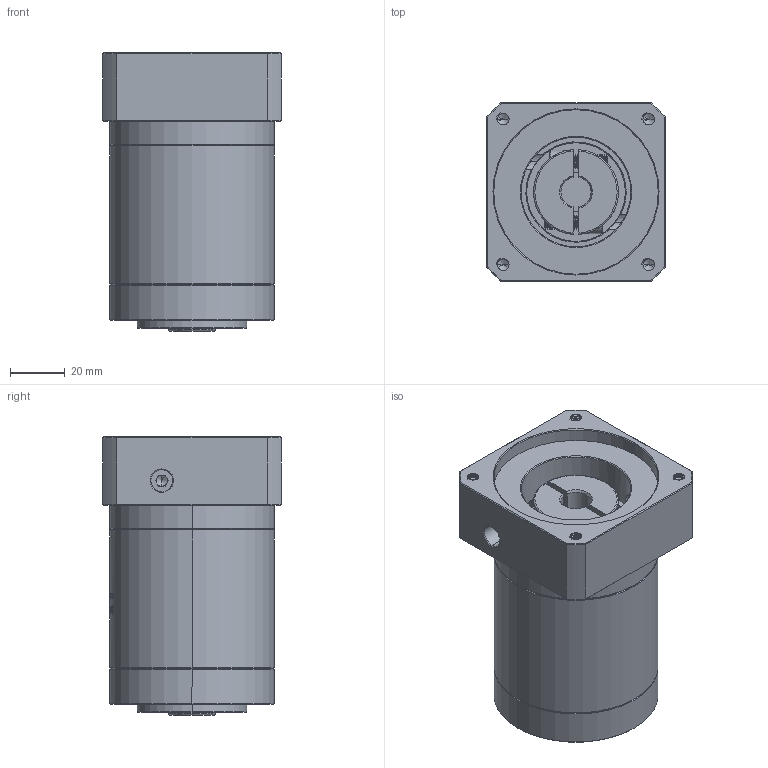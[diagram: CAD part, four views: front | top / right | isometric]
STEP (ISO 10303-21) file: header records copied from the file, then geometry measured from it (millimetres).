
FILE_DESCRIPTION (( 'STEP AP214' ), '1' );
FILE_NAME ('ZE60-K10-L2-11-60-75-M5.STEP', '2022-04-17T15:20:32', ( '' ), ( 'Microsoft' ), 'SwSTEP 2.0', 'SolidWorks 2016', '' );
FILE_SCHEMA (( 'AUTOMOTIVE_DESIGN' ));
Length unit declared in the file: millimetre
Products named in the file (1): ZE60-K10-L2-11-60-75-M5
Bounding box: 65 x 65 x 101.5 mm (x, y, z)
Volume: 269014.4 mm3; surface area: 47694.2 mm2
Topology: 6 solids, 6 shells, 1678 faces, 4568 edges, 2962 vertices
Faces by surface type: plane 730, cylinder 412, bspline 304, cone 214, torus 18
Entity records: 99078 total; most frequent: CARTESIAN_POINT 42460, ORIENTED_EDGE 9096, DIRECTION 6521, EDGE_CURVE 4548, VERTEX_POINT 2962, LINE 2303, VECTOR 2303, AXIS2_PLACEMENT_3D 2109
